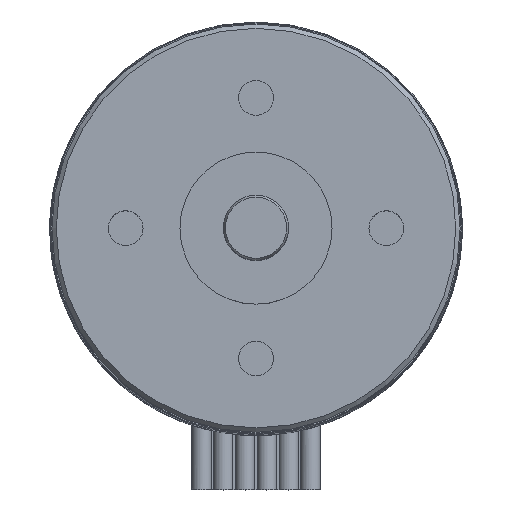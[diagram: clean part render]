
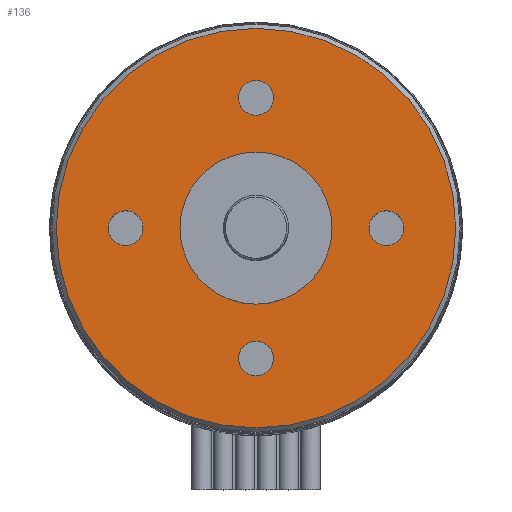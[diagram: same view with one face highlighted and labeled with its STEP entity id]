
A CAD part, top view. The second image highlights one B-rep face of the part: STEP entity #136.
In plain terms, the highlighted planar face has unit normal (0, 0, 1).
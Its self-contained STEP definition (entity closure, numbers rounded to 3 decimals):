
#52=FACE_BOUND('',#271,.T.);
#53=FACE_BOUND('',#272,.T.);
#54=FACE_BOUND('',#273,.T.);
#55=FACE_BOUND('',#274,.T.);
#56=FACE_BOUND('',#275,.T.);
#57=FACE_BOUND('',#276,.T.);
#136=ADVANCED_FACE('',(#52,#53,#54,#55,#56,#57),#187,.T.);
#187=PLANE('',#1043);
#271=EDGE_LOOP('',(#488));
#272=EDGE_LOOP('',(#489));
#273=EDGE_LOOP('',(#490));
#274=EDGE_LOOP('',(#491));
#275=EDGE_LOOP('',(#492));
#276=EDGE_LOOP('',(#493));
#368=CIRCLE('',#1037,0.8);
#369=CIRCLE('',#1038,0.8);
#370=CIRCLE('',#1039,0.8);
#371=CIRCLE('',#1040,0.8);
#372=CIRCLE('',#1041,9.2);
#373=CIRCLE('',#1042,3.5);
#488=ORIENTED_EDGE('',*,*,#816,.T.);
#489=ORIENTED_EDGE('',*,*,#817,.T.);
#490=ORIENTED_EDGE('',*,*,#818,.T.);
#491=ORIENTED_EDGE('',*,*,#819,.T.);
#492=ORIENTED_EDGE('',*,*,#820,.T.);
#493=ORIENTED_EDGE('',*,*,#821,.F.);
#714=VERTEX_POINT('',#1644);
#715=VERTEX_POINT('',#1646);
#716=VERTEX_POINT('',#1648);
#717=VERTEX_POINT('',#1650);
#718=VERTEX_POINT('',#1652);
#719=VERTEX_POINT('',#1654);
#816=EDGE_CURVE('',#714,#714,#368,.T.);
#817=EDGE_CURVE('',#715,#715,#369,.T.);
#818=EDGE_CURVE('',#716,#716,#370,.T.);
#819=EDGE_CURVE('',#717,#717,#371,.T.);
#820=EDGE_CURVE('',#718,#718,#372,.T.);
#821=EDGE_CURVE('',#719,#719,#373,.T.);
#1037=AXIS2_PLACEMENT_3D('',#1643,#1245,#1246);
#1038=AXIS2_PLACEMENT_3D('',#1645,#1247,#1248);
#1039=AXIS2_PLACEMENT_3D('',#1647,#1249,#1250);
#1040=AXIS2_PLACEMENT_3D('',#1649,#1251,#1252);
#1041=AXIS2_PLACEMENT_3D('',#1651,#1253,#1254);
#1042=AXIS2_PLACEMENT_3D('',#1653,#1255,#1256);
#1043=AXIS2_PLACEMENT_3D('',#1655,#1257,#1258);
#1245=DIRECTION('',(0.,0.,-1.));
#1246=DIRECTION('',(0.,1.,0.));
#1247=DIRECTION('',(0.,0.,-1.));
#1248=DIRECTION('',(1.,0.,0.));
#1249=DIRECTION('',(0.,0.,-1.));
#1250=DIRECTION('',(0.,-1.,0.));
#1251=DIRECTION('',(0.,0.,-1.));
#1252=DIRECTION('',(-1.,0.,0.));
#1253=DIRECTION('',(0.,0.,1.));
#1254=DIRECTION('',(1.,0.,0.));
#1255=DIRECTION('',(0.,0.,1.));
#1256=DIRECTION('',(1.,0.,0.));
#1257=DIRECTION('',(0.,0.,1.));
#1258=DIRECTION('',(-1.,0.,0.));
#1643=CARTESIAN_POINT('',(6.,0.,0.));
#1644=CARTESIAN_POINT('',(6.,0.8,0.));
#1645=CARTESIAN_POINT('',(0.,-6.,0.));
#1646=CARTESIAN_POINT('',(0.8,-6.,0.));
#1647=CARTESIAN_POINT('',(-6.,0.,0.));
#1648=CARTESIAN_POINT('',(-6.,-0.8,0.));
#1649=CARTESIAN_POINT('',(0.,6.,0.));
#1650=CARTESIAN_POINT('',(-0.8,6.,0.));
#1651=CARTESIAN_POINT('',(0.,0.,0.));
#1652=CARTESIAN_POINT('',(9.2,0.,0.));
#1653=CARTESIAN_POINT('',(0.,0.,0.));
#1654=CARTESIAN_POINT('',(3.5,0.,0.));
#1655=CARTESIAN_POINT('',(0.,0.,0.));
